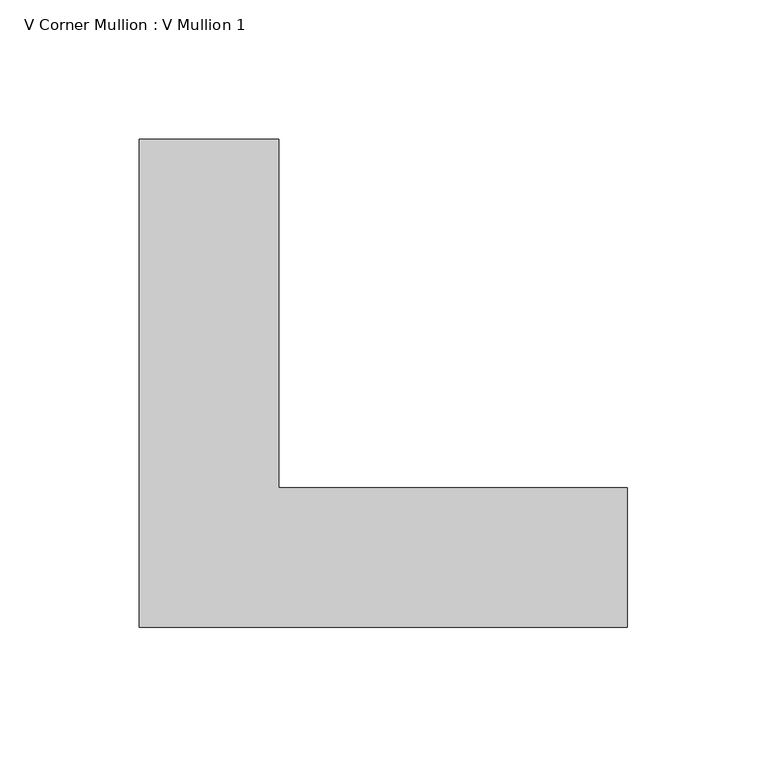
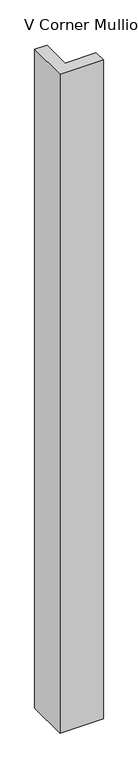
"""IFC4 building model written with IfcOpenShell, lengths in millimetres: member geometry, V Corner Mullion : V Mullion 1."""

from ifc_helpers import new_model, si_unit, frame, origin, place, context, project, spatial, polyline, outline, extrude, source, transform, mapped, element, save


def v_corner_mullion_v_mullion_1_67d7d202(model_context):
    return source(origin(), model_context, "Body", "SweptSolid", [
        extrude(outline(polyline([(75.0, -100.0), (-100.0, -100.0), (-100.0, 75.0), (-50.0, 75.0), (-50.0, -50.0), (75.0, -50.0), (75.0, -100.0)])), frame((0.0, 0.0, -2800.0), z_axis=(0.0, 0.0, 1.0), x_axis=(1.0, 0.0, 0.0)), (0.0, 0.0, 1.0), 2800.0),
    ])


if __name__ == "__main__":
    model = new_model("IFC4")
    model_context = context("Model", 3, world=origin())
    ifc_project = project(units=[si_unit("LENGTHUNIT", "METRE", prefix="MILLI")], contexts=[model_context])
    site = spatial("IfcSite", under=ifc_project)
    building = spatial("IfcBuilding", under=site)
    placement = place(None, origin())
    v_corner_mullion_v_mullion_1_shape = v_corner_mullion_v_mullion_1_67d7d202(model_context)
    element("IfcMember", 1, ObjectType="V Corner Mullion : V Mullion 1", at=placement, inside=building, context=model_context, shape_type="MappedRepresentation", body=[
        mapped(v_corner_mullion_v_mullion_1_shape, transform((0.0, 0.0, 0.0), x_axis=(1.0, 0.0, 0.0), y_axis=(0.0, 1.0, 0.0), z_axis=(0.0, 0.0, 1.0))),
    ])
    save(model, "model.ifc")
